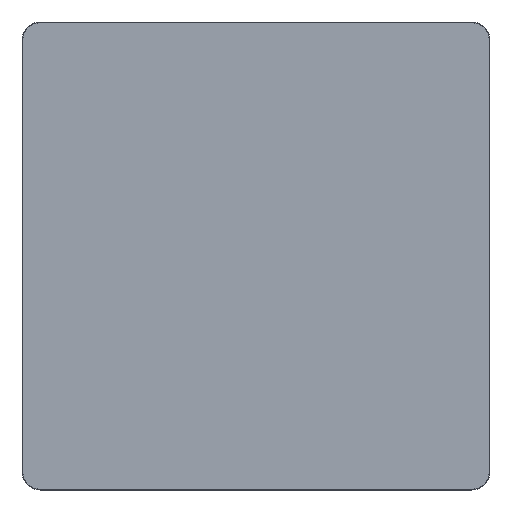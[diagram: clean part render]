
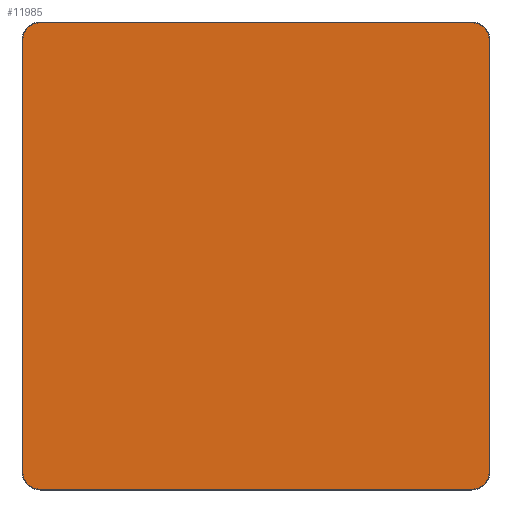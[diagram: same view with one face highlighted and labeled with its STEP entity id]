
A CAD part, top view. The second image highlights one B-rep face of the part: STEP entity #11985.
In plain terms, the highlighted planar face has unit normal (0, 0, 1).
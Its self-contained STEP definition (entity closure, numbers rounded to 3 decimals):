
#11910=CARTESIAN_POINT('',(0.,0.,20.));
#11911=DIRECTION('',(1.,0.,0.));
#11912=DIRECTION('',(0.,0.,1.));
#11913=AXIS2_PLACEMENT_3D('',#11910,#11912,#11911);
#11914=PLANE('',#11913);
#11915=CARTESIAN_POINT('',(-415.,-448.5,20.));
#11916=VERTEX_POINT('',#11915);
#11917=CARTESIAN_POINT('',(415.,-448.5,20.));
#11918=VERTEX_POINT('',#11917);
#11919=CARTESIAN_POINT('',(-415.,-448.5,20.));
#11920=DIRECTION('',(1.,0.,0.));
#11921=VECTOR('',#11920,830.);
#11922=LINE('',#11919,#11921);
#11923=EDGE_CURVE('',#11916,#11918,#11922,.T.);
#11924=ORIENTED_EDGE('E105',*,*,#11923,.T.);
#11925=CARTESIAN_POINT('',(448.5,-415.,20.));
#11926=VERTEX_POINT('',#11925);
#11927=CARTESIAN_POINT('',(415.,-415.,20.));
#11928=DIRECTION('',(0.,-1.,0.));
#11929=DIRECTION('',(0.,-0.,1.));
#11930=AXIS2_PLACEMENT_3D('',#11927,#11929,#11928);
#11931=CIRCLE('',#11930,33.5);
#11932=EDGE_CURVE('',#11918,#11926,#11931,.T.);
#11933=ORIENTED_EDGE('E107',*,*,#11932,.T.);
#11934=CARTESIAN_POINT('',(448.5,415.,20.));
#11935=VERTEX_POINT('',#11934);
#11936=CARTESIAN_POINT('',(448.5,-415.,20.));
#11937=DIRECTION('',(0.,1.,0.));
#11938=VECTOR('',#11937,830.);
#11939=LINE('',#11936,#11938);
#11940=EDGE_CURVE('',#11926,#11935,#11939,.T.);
#11941=ORIENTED_EDGE('E109',*,*,#11940,.T.);
#11942=CARTESIAN_POINT('',(415.,448.5,20.));
#11943=VERTEX_POINT('',#11942);
#11944=CARTESIAN_POINT('',(415.,415.,20.));
#11945=DIRECTION('',(1.,0.,0.));
#11946=DIRECTION('',(0.,0.,1.));
#11947=AXIS2_PLACEMENT_3D('',#11944,#11946,#11945);
#11948=CIRCLE('',#11947,33.5);
#11949=EDGE_CURVE('',#11935,#11943,#11948,.T.);
#11950=ORIENTED_EDGE('E111',*,*,#11949,.T.);
#11951=CARTESIAN_POINT('',(-415.,448.5,20.));
#11952=VERTEX_POINT('',#11951);
#11953=CARTESIAN_POINT('',(415.,448.5,20.));
#11954=DIRECTION('',(-1.,0.,0.));
#11955=VECTOR('',#11954,830.);
#11956=LINE('',#11953,#11955);
#11957=EDGE_CURVE('',#11943,#11952,#11956,.T.);
#11958=ORIENTED_EDGE('E113',*,*,#11957,.T.);
#11959=CARTESIAN_POINT('',(-448.5,415.,20.));
#11960=VERTEX_POINT('',#11959);
#11961=CARTESIAN_POINT('',(-415.,415.,20.));
#11962=DIRECTION('',(0.,1.,0.));
#11963=DIRECTION('',(0.,0.,1.));
#11964=AXIS2_PLACEMENT_3D('',#11961,#11963,#11962);
#11965=CIRCLE('',#11964,33.5);
#11966=EDGE_CURVE('',#11952,#11960,#11965,.T.);
#11967=ORIENTED_EDGE('E115',*,*,#11966,.T.);
#11968=CARTESIAN_POINT('',(-448.5,-415.,20.));
#11969=VERTEX_POINT('',#11968);
#11970=CARTESIAN_POINT('',(-448.5,415.,20.));
#11971=DIRECTION('',(0.,-1.,0.));
#11972=VECTOR('',#11971,830.);
#11973=LINE('',#11970,#11972);
#11974=EDGE_CURVE('',#11960,#11969,#11973,.T.);
#11975=ORIENTED_EDGE('E117',*,*,#11974,.T.);
#11976=CARTESIAN_POINT('',(-415.,-415.,20.));
#11977=DIRECTION('',(-1.,0.,0.));
#11978=DIRECTION('',(0.,0.,1.));
#11979=AXIS2_PLACEMENT_3D('',#11976,#11978,#11977);
#11980=CIRCLE('',#11979,33.5);
#11981=EDGE_CURVE('',#11969,#11916,#11980,.T.);
#11982=ORIENTED_EDGE('E119',*,*,#11981,.T.);
#11983=EDGE_LOOP('',(#11924,#11933,#11941,#11950,#11958,#11967,#11975,#11982));
#11984=FACE_OUTER_BOUND('',#11983,.T.);
#11985=ADVANCED_FACE('F2',(#11984),#11914,.T.);
